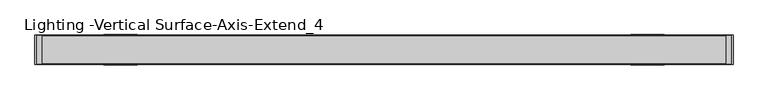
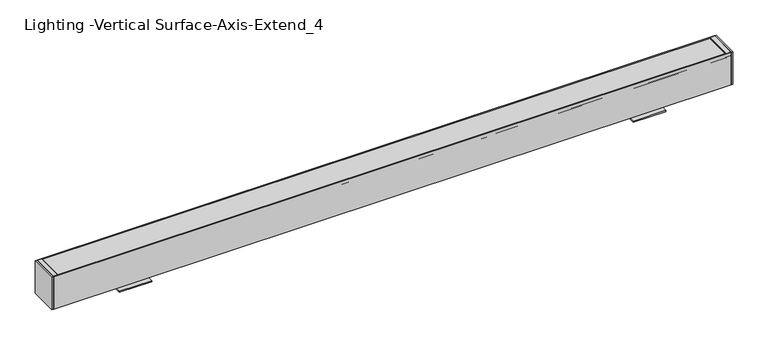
"""IFC4 building model written with IfcOpenShell, lengths in millimetres: light fixture geometry, Lighting -Vertical Surface-Axis-Extend_4 : EX4S-900-80-35-SO-4."""

from ifc_helpers import new_model, si_unit, point, frame, frame_2d, origin, place, context, project, spatial, polyline, circle_curve, trimmed, segment, composite_curve, outline, extrude, source, transform, mapped, element, save


def lighting_vertical_surface_axis_extend_4_53f30485(model_context):
    return source(origin(), model_context, "Body", "SweptSolid", [
        extrude(outline(polyline([(14.05509, 19.05), (70.87489, 19.05), (70.87489, 3.9878), (96.2749235, 3.9878), (96.2749235, 0.0), (-11.3449435, 0.0), (-11.3449435, 3.9878), (14.05509, 3.9878), (14.05509, 19.05)])), frame((881.9824767, 0.0, 0.0), z_axis=(1.0, 0.0, 0.0), x_axis=(0.0, 1.0, 0.0)), (0.0, 0.0, 1.0), 118.69928),
        extrude(outline(polyline([(14.05509, 19.05), (70.87489, 19.05), (70.87489, 3.9878), (96.2749235, 3.9878), (96.2749235, 0.0), (-11.3449435, 0.0), (-11.3449435, 3.9878), (14.05509, 3.9878), (14.05509, 19.05)])), frame((-989.4895233, 0.0, 0.0), z_axis=(1.0, 0.0, 0.0), x_axis=(0.0, 1.0, 0.0)), (0.0, 0.0, 1.0), 118.69928),
        extrude(outline(polyline([(142.7257861, -1210.2764833), (143.8275, -1211.201027), (143.8275, -1228.5898833), (139.2432981, -1228.5898833), (139.2432981, -1217.9218833), (142.0495, -1217.9218833), (142.0495, -1211.0702333), (141.25575, -1211.0702333), (141.25575, -1210.2764833), (142.7257861, -1210.2764833)])), frame((0.0, -8.28802, 0.0), z_axis=(0.0, 1.0, 0.0), x_axis=(0.0, 0.0, 1.0)), (0.0, 0.0, 1.0), 101.50602),
        extrude(outline(polyline([(-1228.5898833, 95.25), (-1228.5898833, -10.32002), (-1234.9398833, -10.32002), (-1234.9398833, 95.25), (-1228.5898833, 95.25)])), frame((0.0, 0.0, 19.05), z_axis=(0.0, 0.0, 1.0), x_axis=(1.0, 0.0, 0.0)), (0.0, 0.0, 1.0), 124.7775),
        extrude(outline(polyline([(142.7257861, 1221.4687167), (141.25575, 1221.4687167), (141.25575, 1222.2624667), (142.0495, 1222.2624667), (142.0495, 1229.1141167), (139.2432981, 1229.1141167), (139.2432981, 1239.7821167), (143.8275, 1239.7821167), (143.8275, 1222.3932605), (142.7257861, 1221.4687167)])), frame((0.0, -8.28802, 0.0), z_axis=(0.0, 1.0, 0.0), x_axis=(0.0, 0.0, 1.0)), (0.0, 0.0, 1.0), 101.50602),
        extrude(outline(polyline([(1239.7821167, -10.32002), (1239.7821167, 95.25), (1246.1321167, 95.25), (1246.1321167, -10.32002), (1239.7821167, -10.32002)])), frame((0.0, 0.0, 19.05), z_axis=(0.0, 0.0, 1.0), x_axis=(1.0, 0.0, 0.0)), (0.0, 0.0, 1.0), 124.7775),
        extrude(outline(composite_curve([segment(polyline([(87.4187262, 139.0954791), (-2.4887462, 139.0954791), (-2.8274381, 132.6328537)]), True, "CONTINUOUS"), segment(trimmed(circle_curve(frame_2d((-5.57022, 129.63398)), 4.064), [point((-2.8274381, 132.6328537))], [point((-3.6979014, 126.0269703))], False, "CARTESIAN"), True, "CONTINUOUS"), segment(trimmed(circle_curve(frame_2d((-0.465364, 126.8158257)), 3.3274001), [point((-3.6979014, 126.0269703))], [point((-2.8826156, 124.5292375))], True, "CARTESIAN"), True, "CONTINUOUS"), segment(trimmed(circle_curve(frame_2d((4.5536623, 131.5635508)), 10.2362001), [point((-2.8826156, 124.5292375))], [point((-1.5279266, 123.3298355))], True, "CARTESIAN"), True, "CONTINUOUS"), segment(trimmed(circle_curve(frame_2d((-2.0183773, 122.6658262)), 0.8255), [point((-1.5279266, 123.3298355))], [point((-2.508828, 122.0018169))], False, "CARTESIAN"), True, "CONTINUOUS"), segment(trimmed(circle_curve(frame_2d((4.5536631, 131.5635517)), 11.8872013), [point((-2.508828, 122.0018169))], [point((-4.0820152, 123.3946708))], False, "CARTESIAN"), True, "CONTINUOUS"), segment(trimmed(circle_curve(frame_2d((-0.465364, 126.8158257)), 4.9784001), [point((-4.0820152, 123.3946708))], [point((-5.4269007, 127.22524))], False, "CARTESIAN"), True, "CONTINUOUS"), segment(trimmed(circle_curve(frame_2d((-5.57022, 129.63398)), 2.413), [point((-5.4269007, 127.22524))], [point((-3.7914141, 131.2644458))], True, "CARTESIAN"), True, "CONTINUOUS"), segment(trimmed(circle_curve(frame_2d((-1.9189869, 132.9807256)), 2.54), [point((-3.7914141, 131.2644458))], [point((-4.4555059, 133.1136589))], False, "CARTESIAN"), True, "CONTINUOUS"), segment(polyline([(-4.4555059, 133.1136589), (-4.142012, 139.0954791), (-7.14502, 139.0954791), (-7.14502, 141.00048), (92.075, 141.00048), (92.075, 139.0954791), (89.071992, 139.0954791), (89.3854859, 133.1136589)]), True, "CONTINUOUS"), segment(trimmed(circle_curve(frame_2d((86.8489669, 132.9807256)), 2.54), [point((89.3854859, 133.1136589))], [point((88.7213941, 131.2644458))], False, "CARTESIAN"), True, "CONTINUOUS"), segment(trimmed(circle_curve(frame_2d((90.5002, 129.63398)), 2.413), [point((88.7213941, 131.2644458))], [point((90.3568807, 127.22524))], True, "CARTESIAN"), True, "CONTINUOUS"), segment(trimmed(circle_curve(frame_2d((85.395344, 126.8158257)), 4.9784001), [point((90.3568807, 127.22524))], [point((89.0119952, 123.3946708))], False, "CARTESIAN"), True, "CONTINUOUS"), segment(trimmed(circle_curve(frame_2d((80.3763169, 131.5635517)), 11.8872013), [point((89.0119952, 123.3946708))], [point((87.438808, 122.0018169))], False, "CARTESIAN"), True, "CONTINUOUS"), segment(trimmed(circle_curve(frame_2d((86.9483573, 122.6658262)), 0.8255), [point((87.438808, 122.0018169))], [point((86.4579066, 123.3298355))], False, "CARTESIAN"), True, "CONTINUOUS"), segment(trimmed(circle_curve(frame_2d((80.3763177, 131.5635508)), 10.2362001), [point((86.4579066, 123.3298355))], [point((87.8125956, 124.5292375))], True, "CARTESIAN"), True, "CONTINUOUS"), segment(trimmed(circle_curve(frame_2d((85.395344, 126.8158257)), 3.3274001), [point((87.8125956, 124.5292375))], [point((88.6278814, 126.0269703))], True, "CARTESIAN"), True, "CONTINUOUS"), segment(trimmed(circle_curve(frame_2d((90.5002, 129.63398)), 4.064), [point((88.6278814, 126.0269703))], [point((87.7574181, 132.6328537))], False, "CARTESIAN"), True, "CONTINUOUS"), segment(polyline([(87.7574181, 132.6328537), (87.4187262, 139.0954791)]), True, "CONTINUOUS")], self_intersect=False)), frame((-1213.6038833, 0.0, 0.0), z_axis=(1.0, 0.0, 0.0), x_axis=(0.0, 1.0, 0.0)), (0.0, 0.0, 1.0), 2438.4),
        extrude(outline(composite_curve([segment(polyline([(93.218, 128.9177), (91.3785797, 128.9177)]), True, "CONTINUOUS"), segment(trimmed(circle_curve(frame_2d((89.8722297, 128.9177)), 1.5063501), [point((91.3785797, 128.9177))], [point((89.1190546, 127.6131626))], False, "CARTESIAN"), True, "CONTINUOUS"), segment(trimmed(circle_curve(frame_2d((90.3102121, 129.6763079)), 2.382315), [point((89.1190546, 127.6131626))], [point((87.9356516, 129.8683682))], False, "CARTESIAN"), True, "CONTINUOUS"), segment(polyline([(87.9356516, 129.8683682), (91.313, 132.7023), (91.313, 130.9497), (93.218, 130.9497), (93.218, 137.4775), (91.313, 137.4775), (91.313, 135.9535), (89.662, 136.0400252), (89.662, 138.7475), (93.218, 138.7475), (93.218, 143.8275), (95.25, 143.8275), (95.25, 19.05), (-10.32002, 19.05), (-10.32002, 143.8275), (-8.28802, 143.8275), (-8.28802, 138.7475), (-4.73202, 138.7475), (-4.73202, 136.0400252), (-6.38302, 135.9535), (-6.38302, 137.4775), (-8.28802, 137.4775), (-8.28802, 130.9497), (-6.38302, 130.9497), (-6.38302, 132.7023), (-3.0056716, 129.8683682)]), True, "CONTINUOUS"), segment(trimmed(circle_curve(frame_2d((-5.3802321, 129.6763079)), 2.382315), [point((-3.0056716, 129.8683682))], [point((-4.1890746, 127.6131626))], False, "CARTESIAN"), True, "CONTINUOUS"), segment(trimmed(circle_curve(frame_2d((-4.9422497, 128.9177)), 1.5063501), [point((-4.1890746, 127.6131626))], [point((-6.4485997, 128.9177))], False, "CARTESIAN"), True, "CONTINUOUS"), segment(polyline([(-6.4485997, 128.9177), (-8.28802, 128.9177), (-8.28802, 21.082), (93.218, 21.082), (93.218, 128.9177)]), True, "CONTINUOUS")], self_intersect=False)), frame((-1228.5898833, 0.0, 0.0), z_axis=(1.0, 0.0, 0.0), x_axis=(0.0, 1.0, 0.0)), (0.0, 0.0, 1.0), 2468.372),
    ])


if __name__ == "__main__":
    model = new_model("IFC4")
    model_context = context("Model", 3, world=origin())
    ifc_project = project(units=[si_unit("LENGTHUNIT", "METRE", prefix="MILLI")], contexts=[model_context])
    site = spatial("IfcSite", under=ifc_project)
    building = spatial("IfcBuilding", under=site)
    placement = place(None, origin())
    lighting_vertical_surface_axis_extend_4_shape = lighting_vertical_surface_axis_extend_4_53f30485(model_context)
    element("IfcLightFixture", 1, ObjectType="Lighting -Vertical Surface-Axis-Extend_4 : EX4S-900-80-35-SO-4", at=placement, inside=building, context=model_context, shape_type="MappedRepresentation", body=[
        mapped(lighting_vertical_surface_axis_extend_4_shape, transform((0.0, 0.0, 0.0), x_axis=(1.0, 0.0, 0.0), y_axis=(0.0, 1.0, 0.0), z_axis=(0.0, 0.0, 1.0))),
    ])
    save(model, "model.ifc")
